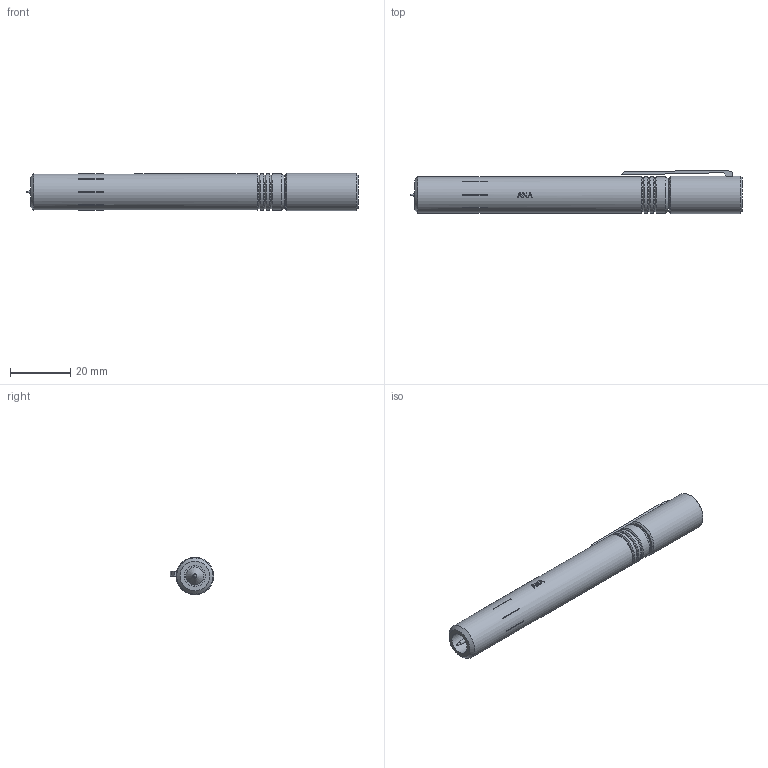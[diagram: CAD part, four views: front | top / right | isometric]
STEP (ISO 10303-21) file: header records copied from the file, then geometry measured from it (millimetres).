
FILE_DESCRIPTION(('Open CASCADE Model'),'2;1');
FILE_NAME('Open CASCADE Shape Model','2026-11-25T12:43:24',('Author'),( 'Open CASCADE'),'Open CASCADE STEP processor 8.0','Open CASCADE 8.0' ,'Unknown');
FILE_SCHEMA(('AP242_MANAGED_MODEL_BASED_3D_ENGINEERING_MIM_LF {1 0 10303 442 1 1 4 }' ));
Length unit declared in the file: millimetre
Products named in the file (4): Barrel; Threaded cap; Refill; Pocket clip
Bounding box: 109.88 x 14.3 x 12.4 mm (x, y, z)
Volume: 10087 mm3; surface area: 9577.4 mm2
Topology: 4 solids, 4 shells, 141 faces, 348 edges, 229 vertices
Faces by surface type: plane 82, cylinder 39, cone 14, bspline 6
Full cylindrical faces by diameter (mm): 6 x1, 7 x1, 9.088 x10, 9.7 x9, 10 x1, 11.2 x3, 12 x4, 12.4 x1
Entity records: 19358 total; most frequent: CARTESIAN_POINT 12667, DIRECTION 1100, ORIENTED_EDGE 694, PCURVE 694, DEFINITIONAL_REPRESENTATION 694, LINE 560, VECTOR 560, EDGE_CURVE 347
